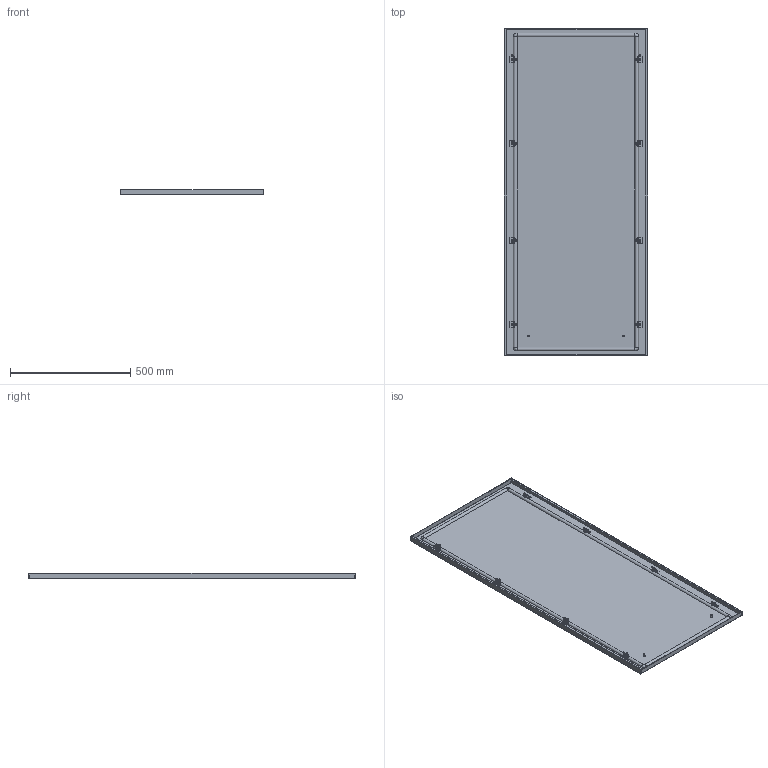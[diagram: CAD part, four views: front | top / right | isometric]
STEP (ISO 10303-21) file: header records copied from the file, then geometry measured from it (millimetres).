
FILE_DESCRIPTION(('Open CASCADE Model'),'2;1');
FILE_NAME('Open CASCADE Shape Model','2025-02-07T16:30:46',('Author'),( 'Open CASCADE'),'Open CASCADE STEP processor 7.8','Open CASCADE 7.8' ,'Unknown');
FILE_SCHEMA(('AUTOMOTIVE_DESIGN { 1 0 10303 214 1 1 1 1 }'));
Length unit declared in the file: millimetre
Products named in the file (10): Compound1; Compound2; Compound3; Solid1; Solid2; Solid3; Solid4; Solid5; Solid6; Solid7
Assembly tree (40 placements, depth 4):
  Compound1
    Compound2
      Compound3
        Solid1
        Solid2  x4
      Solid3
    Solid4  x8
    Solid5  x8
    Solid6  x8
    Solid7  x8
Bounding box: 594 x 1355 x 23.8 mm (x, y, z)
Volume: 1697569.4 mm3; surface area: 1987787.8 mm2
Topology: 38 solids, 38 shells, 1655 faces, 4040 edges, 2460 vertices
Faces by surface type: plane 1043, cone 308, cylinder 268, torus 27, bspline 8, revolution 1
Full cylindrical faces by diameter (mm): 5 x16, 6 x132, 7.5 x4, 8 x16, 10 x8, 11.57 x8
Entity records: 7779 total; most frequent: CARTESIAN_POINT 1469, DIRECTION 1264, ORIENTED_EDGE 1244, EDGE_CURVE 622, AXIS2_PLACEMENT_3D 427, LINE 409, VECTOR 409, VERTEX_POINT 387
